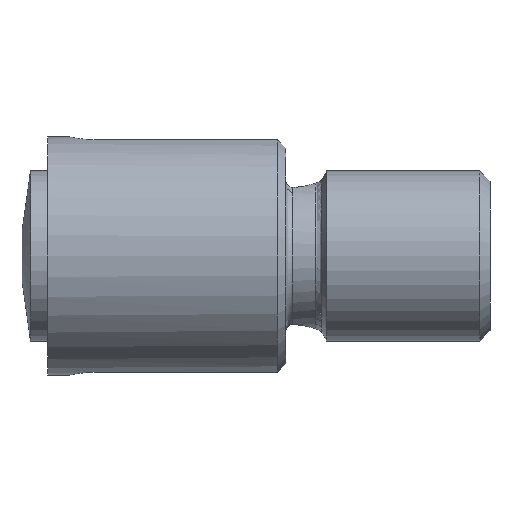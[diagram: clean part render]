
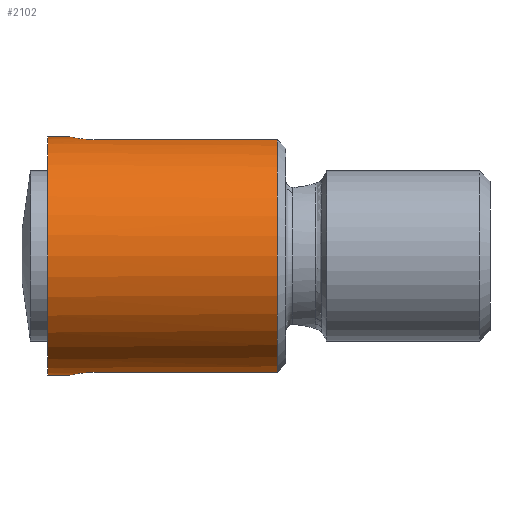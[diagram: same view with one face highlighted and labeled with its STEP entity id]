
A CAD part, left-side view. The second image highlights one B-rep face of the part: STEP entity #2102.
In plain terms, the highlighted cylindrical face has radius 7 mm (diameter 14 mm), a partial arc.
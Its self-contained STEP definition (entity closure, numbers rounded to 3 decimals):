
#5 = VERTEX_POINT ( 'NONE', #443 ) ;
#17 = CARTESIAN_POINT ( 'NONE',  ( -0.923, -1.602, -6.94 ) ) ;
#20 = LINE ( 'NONE', #1467, #1934 ) ;
#21 = EDGE_CURVE ( 'NONE', #1459, #5, #2115, .T. ) ;
#48 = EDGE_CURVE ( 'NONE', #1023, #1664, #1167, .T. ) ;
#103 = CARTESIAN_POINT ( 'NONE',  ( -1.347, -2.133, 6.869 ) ) ;
#140 = EDGE_CURVE ( 'NONE', #1390, #1095, #887, .T. ) ;
#142 = B_SPLINE_CURVE_WITH_KNOTS ( 'NONE', 3,
 ( #176, #205, #277, #240, #293, #295, #304, #17, #306, #317, #327, #341 ),
 .UNSPECIFIED., .F., .F.,
 ( 4, 2, 2, 2, 2, 4 ),
 ( 0.007, 0.007, 0.008, 0.008, 0.009, 0.009 ),
 .UNSPECIFIED. ) ;
#176 = CARTESIAN_POINT ( 'NONE',  ( -1.5, -2.8, -6.837 ) ) ;
#205 = CARTESIAN_POINT ( 'NONE',  ( -1.5, -2.701, -6.837 ) ) ;
#240 = CARTESIAN_POINT ( 'NONE',  ( -1.452, -2.411, -6.848 ) ) ;
#255 = DIRECTION ( 'NONE',  ( 0., -1., 0. ) ) ;
#277 = CARTESIAN_POINT ( 'NONE',  ( -1.49, -2.603, -6.84 ) ) ;
#280 = CARTESIAN_POINT ( 'NONE',  ( -1.5, 6.807, -6.837 ) ) ;
#293 = CARTESIAN_POINT ( 'NONE',  ( -1.423, -2.316, -6.854 ) ) ;
#295 = CARTESIAN_POINT ( 'NONE',  ( -1.31, -2.044, -6.877 ) ) ;
#304 = CARTESIAN_POINT ( 'NONE',  ( -1.199, -1.878, -6.898 ) ) ;
#306 = CARTESIAN_POINT ( 'NONE',  ( -0.757, -1.49, -6.961 ) ) ;
#317 = CARTESIAN_POINT ( 'NONE',  ( -0.396, -1.34, -6.991 ) ) ;
#327 = CARTESIAN_POINT ( 'NONE',  ( -0.199, -1.3, -7. ) ) ;
#334 = VERTEX_POINT ( 'NONE', #1982 ) ;
#341 = CARTESIAN_POINT ( 'NONE',  ( 0., -1.3, -7. ) ) ;
#397 = ORIENTED_EDGE ( 'NONE', *, *, #1225, .F. ) ;
#401 = CARTESIAN_POINT ( 'NONE',  ( -0.394, -1.34, 6.991 ) ) ;
#443 = CARTESIAN_POINT ( 'NONE',  ( -1.5, -2.8, 6.837 ) ) ;
#553 = AXIS2_PLACEMENT_3D ( 'NONE', #2101, #2103, #2105 ) ;
#577 = EDGE_CURVE ( 'NONE', #1816, #1390, #1300, .T. ) ;
#615 = DIRECTION ( 'NONE',  ( 0., 1., 0. ) ) ;
#678 = CARTESIAN_POINT ( 'NONE',  ( 0., -1.3, 7. ) ) ;
#685 = DIRECTION ( 'NONE',  ( 0., 0., -1. ) ) ;
#716 = CYLINDRICAL_SURFACE ( 'NONE', #1900, 7. ) ;
#718 = CARTESIAN_POINT ( 'NONE',  ( 0., 0., -7. ) ) ;
#828 = VECTOR ( 'NONE', #1525, 1000. ) ;
#877 = CIRCLE ( 'NONE', #553, 7. ) ;
#887 = CIRCLE ( 'NONE', #1802, 7. ) ;
#945 = EDGE_CURVE ( 'NONE', #1095, #5, #20, .T. ) ;
#1013 = ORIENTED_EDGE ( 'NONE', *, *, #140, .T. ) ;
#1016 = CARTESIAN_POINT ( 'NONE',  ( -1.5, -2.602, 6.837 ) ) ;
#1018 = DIRECTION ( 'NONE',  ( 0., 0., 1. ) ) ;
#1023 = VERTEX_POINT ( 'NONE', #1836 ) ;
#1039 = CARTESIAN_POINT ( 'NONE',  ( 0., 6.807, -7. ) ) ;
#1053 = CARTESIAN_POINT ( 'NONE',  ( -0.922, -1.601, 6.94 ) ) ;
#1055 = EDGE_CURVE ( 'NONE', #1459, #334, #1375, .T. ) ;
#1095 = VERTEX_POINT ( 'NONE', #1801 ) ;
#1136 = VECTOR ( 'NONE', #255, 1000. ) ;
#1167 = LINE ( 'NONE', #1039, #828 ) ;
#1225 = EDGE_CURVE ( 'NONE', #1664, #334, #877, .T. ) ;
#1232 = ORIENTED_EDGE ( 'NONE', *, *, #2145, .F. ) ;
#1260 = DIRECTION ( 'NONE',  ( 0., 1., 0. ) ) ;
#1299 = CARTESIAN_POINT ( 'NONE',  ( -1.193, -1.885, 6.898 ) ) ;
#1300 = LINE ( 'NONE', #280, #1136 ) ;
#1310 = EDGE_LOOP ( 'NONE', ( #2020, #1232, #2075, #1013, #1783, #1723, #1731, #397 ) ) ;
#1345 = CARTESIAN_POINT ( 'NONE',  ( -1.5, -2.8, 6.837 ) ) ;
#1350 = CARTESIAN_POINT ( 'NONE',  ( 0., 6.807, 0. ) ) ;
#1375 = LINE ( 'NONE', #1629, #1424 ) ;
#1390 = VERTEX_POINT ( 'NONE', #1735 ) ;
#1424 = VECTOR ( 'NONE', #1697, 1000. ) ;
#1459 = VERTEX_POINT ( 'NONE', #1847 ) ;
#1467 = CARTESIAN_POINT ( 'NONE',  ( -1.5, 6.807, 6.837 ) ) ;
#1477 = DIRECTION ( 'NONE',  ( 0., 1., 0. ) ) ;
#1525 = DIRECTION ( 'NONE',  ( 0., 1., 0. ) ) ;
#1629 = CARTESIAN_POINT ( 'NONE',  ( 0., 6.807, 7. ) ) ;
#1664 = VERTEX_POINT ( 'NONE', #718 ) ;
#1697 = DIRECTION ( 'NONE',  ( 0., 1., 0. ) ) ;
#1699 = CARTESIAN_POINT ( 'NONE',  ( -1.13, -1.808, 6.909 ) ) ;
#1707 = CARTESIAN_POINT ( 'NONE',  ( 0., -13.5, 0. ) ) ;
#1715 = CARTESIAN_POINT ( 'NONE',  ( -0.196, -1.3, 7. ) ) ;
#1723 = ORIENTED_EDGE ( 'NONE', *, *, #21, .F. ) ;
#1731 = ORIENTED_EDGE ( 'NONE', *, *, #1055, .T. ) ;
#1735 = CARTESIAN_POINT ( 'NONE',  ( -1.5, -13.5, -6.837 ) ) ;
#1783 = ORIENTED_EDGE ( 'NONE', *, *, #945, .T. ) ;
#1795 = FACE_OUTER_BOUND ( 'NONE', #1310, .T. ) ;
#1801 = CARTESIAN_POINT ( 'NONE',  ( -1.5, -13.5, 6.837 ) ) ;
#1802 = AXIS2_PLACEMENT_3D ( 'NONE', #1707, #615, #685 ) ;
#1816 = VERTEX_POINT ( 'NONE', #1949 ) ;
#1836 = CARTESIAN_POINT ( 'NONE',  ( 0., -1.3, -7. ) ) ;
#1847 = CARTESIAN_POINT ( 'NONE',  ( 0., -1.3, 7. ) ) ;
#1900 = AXIS2_PLACEMENT_3D ( 'NONE', #1350, #1260, #1018 ) ;
#1923 = CARTESIAN_POINT ( 'NONE',  ( -0.755, -1.489, 6.961 ) ) ;
#1934 = VECTOR ( 'NONE', #1477, 1000. ) ;
#1949 = CARTESIAN_POINT ( 'NONE',  ( -1.5, -2.8, -6.837 ) ) ;
#1982 = CARTESIAN_POINT ( 'NONE',  ( 0., 0., 7. ) ) ;
#2020 = ORIENTED_EDGE ( 'NONE', *, *, #48, .F. ) ;
#2052 = CARTESIAN_POINT ( 'NONE',  ( -1.301, -2.047, 6.878 ) ) ;
#2075 = ORIENTED_EDGE ( 'NONE', *, *, #577, .T. ) ;
#2091 = CARTESIAN_POINT ( 'NONE',  ( -1.461, -2.407, 6.846 ) ) ;
#2101 = CARTESIAN_POINT ( 'NONE',  ( 0., 0., 0. ) ) ;
#2102 = ADVANCED_FACE ( 'NONE', ( #1795 ), #716, .T. ) ;
#2103 = DIRECTION ( 'NONE',  ( 0., 1., 0. ) ) ;
#2105 = DIRECTION ( 'NONE',  ( 0., 0., 1. ) ) ;
#2115 = B_SPLINE_CURVE_WITH_KNOTS ( 'NONE', 3,
 ( #678, #1715, #401, #1923, #1053, #1699, #1299, #2052, #103, #2091, #1016, #1345 ),
 .UNSPECIFIED., .F., .F.,
 ( 4, 2, 2, 2, 2, 4 ),
 ( 0.005, 0.005, 0.006, 0.006, 0.006, 0.007 ),
 .UNSPECIFIED. ) ;
#2145 = EDGE_CURVE ( 'NONE', #1816, #1023, #142, .T. ) ;
